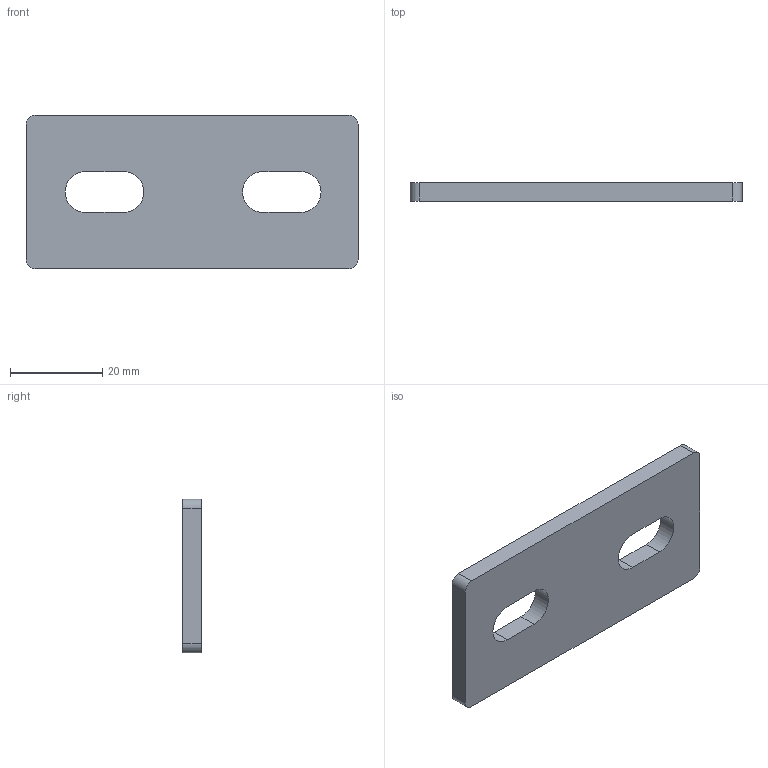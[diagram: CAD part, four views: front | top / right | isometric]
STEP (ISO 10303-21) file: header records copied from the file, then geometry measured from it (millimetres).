
FILE_DESCRIPTION (( 'STEP AP203' ), '1' );
FILE_NAME ('DSB3575-8.STEP', '2021-07-02T06:24:17', ( '' ), ( '' ), 'SwSTEP 2.0', 'SolidWorks 2017', '' );
FILE_SCHEMA (( 'CONFIG_CONTROL_DESIGN' ));
Length unit declared in the file: millimetre
Products named in the file (1): DSB3575-8
Bounding box: 71.9 x 4 x 33.3 mm (x, y, z)
Volume: 8499.5 mm3; surface area: 5430 mm2
Topology: 1 solids, 1 shells, 18 faces, 48 edges, 32 vertices
Faces by surface type: plane 10, cylinder 8
Entity records: 653 total; most frequent: DIRECTION 102, CARTESIAN_POINT 99, ORIENTED_EDGE 96, EDGE_CURVE 48, AXIS2_PLACEMENT_3D 35, VERTEX_POINT 32, LINE 32, VECTOR 32
